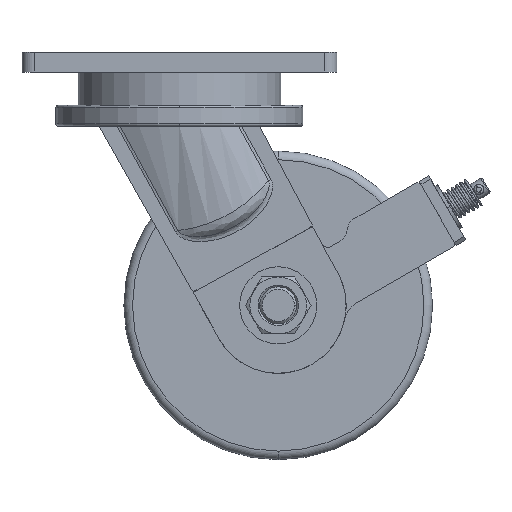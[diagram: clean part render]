
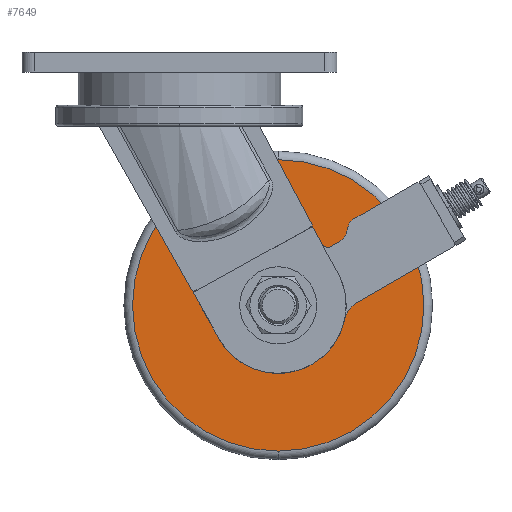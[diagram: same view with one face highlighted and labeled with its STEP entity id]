
A CAD part, left-side view. The second image highlights one B-rep face of the part: STEP entity #7649.
In plain terms, the highlighted planar face has unit normal (-1, 0, 0) as drawn and (0, 0, -1) by its records, which use the part's own axes.
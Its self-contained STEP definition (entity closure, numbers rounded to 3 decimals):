
#912=CARTESIAN_POINT('',(-188.069,-184.513,-328.069));
#913=VERTEX_POINT('',#912);
#931=CARTESIAN_POINT('',(-188.069,51.489,-328.069));
#932=VERTEX_POINT('',#931);
#940=CARTESIAN_POINT('',(-188.069,-66.512,-328.069));
#941=DIRECTION('',(0.0,0.0,1.0));
#942=DIRECTION('',(1.0,0.0,0.0));
#943=AXIS2_PLACEMENT_3D('',#940,#941,#942);
#944=CIRCLE('',#943,118.001);
#945=EDGE_CURVE('',#932,#913,#944,.T.);
#955=CARTESIAN_POINT('',(-155.819,-66.512,-328.069));
#956=VERTEX_POINT('',#955);
#965=CARTESIAN_POINT('',(-220.319,-66.512,-328.069));
#966=VERTEX_POINT('',#965);
#967=CARTESIAN_POINT('',(-188.069,-66.512,-328.069));
#968=DIRECTION('',(0.0,0.0,1.0));
#969=DIRECTION('',(1.0,0.0,0.0));
#970=AXIS2_PLACEMENT_3D('',#967,#968,#969);
#971=CIRCLE('',#970,32.25);
#972=EDGE_CURVE('',#966,#956,#971,.T.);
#7611=CARTESIAN_POINT('',(-188.069,-66.512,-328.069));
#7612=DIRECTION('',(0.0,0.0,1.0));
#7613=DIRECTION('',(1.0,0.0,0.0));
#7614=AXIS2_PLACEMENT_3D('',#7611,#7612,#7613);
#7615=CIRCLE('',#7614,32.25);
#7616=EDGE_CURVE('',#956,#966,#7615,.T.);
#7621=CARTESIAN_POINT('',(-112.944,-66.512,-328.069));
#7622=DIRECTION('',(0.0,0.0,-1.0));
#7623=DIRECTION('',(0.0,1.0,0.0));
#7624=AXIS2_PLACEMENT_3D('',#7621,#7622,#7623);
#7625=PLANE('',#7624);
#7626=CARTESIAN_POINT('',(-70.068,-66.512,-328.069));
#7627=VERTEX_POINT('',#7626);
#7628=CARTESIAN_POINT('',(-188.069,-66.512,-328.069));
#7629=DIRECTION('',(0.0,0.0,1.0));
#7630=DIRECTION('',(1.0,0.0,0.0));
#7631=AXIS2_PLACEMENT_3D('',#7628,#7629,#7630);
#7632=CIRCLE('',#7631,118.001);
#7633=EDGE_CURVE('',#7627,#932,#7632,.T.);
#7634=ORIENTED_EDGE('',*,*,#7633,.F.);
#7635=CARTESIAN_POINT('',(-188.069,-66.512,-328.069));
#7636=DIRECTION('',(0.0,0.0,1.0));
#7637=DIRECTION('',(1.0,0.0,0.0));
#7638=AXIS2_PLACEMENT_3D('',#7635,#7636,#7637);
#7639=CIRCLE('',#7638,118.001);
#7640=EDGE_CURVE('',#913,#7627,#7639,.T.);
#7641=ORIENTED_EDGE('',*,*,#7640,.F.);
#7642=ORIENTED_EDGE('',*,*,#945,.F.);
#7643=EDGE_LOOP('',(#7634,#7641,#7642));
#7644=FACE_OUTER_BOUND('',#7643,.T.);
#7645=ORIENTED_EDGE('',*,*,#7616,.T.);
#7646=ORIENTED_EDGE('',*,*,#972,.T.);
#7647=EDGE_LOOP('',(#7645,#7646));
#7648=FACE_BOUND('',#7647,.T.);
#7649=ADVANCED_FACE('',(#7644,#7648),#7625,.T.);
